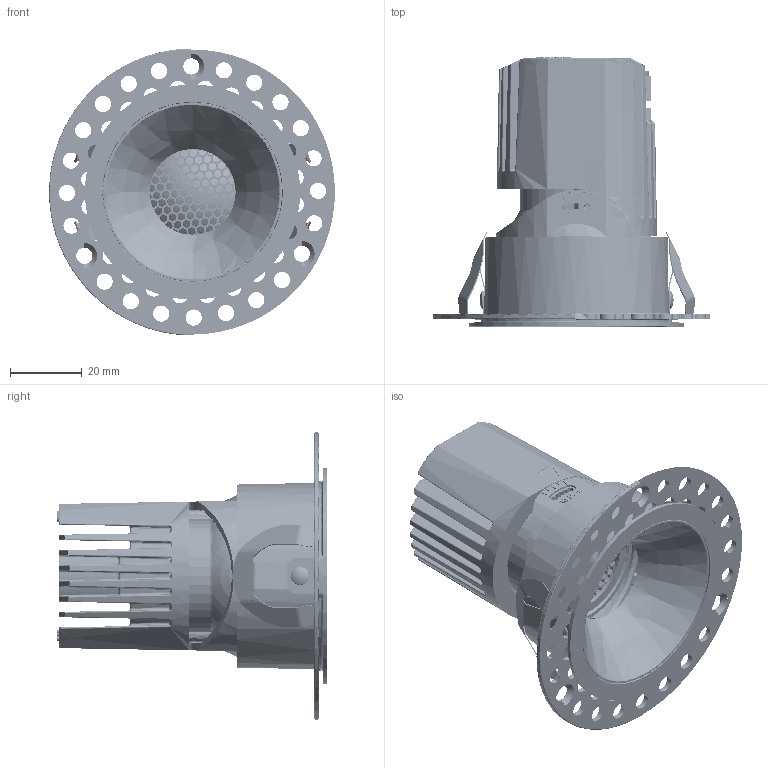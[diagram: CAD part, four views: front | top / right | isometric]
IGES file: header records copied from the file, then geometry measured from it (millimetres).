
Start section: SolidWorks IGES file using analytic representation for surfaces
Global section: file name: \\ARNOLD\compartida\Nueva Coleccion Septiembre 2026\ARQUITECTURAL\SEITY_informacion\SEITY_imagenes y 3d\Required documents_0706\3D STEP file - downlights\TERNA T0331\168001-55.STEP.IGS; native system: SolidWorks 2023; preprocessor: SolidWorks 2023; author: adrian; date: 260828.102226; units: millimetre
Bounding box: 79.7 x 75 x 80 mm (x, y, z)
Surface area: 76880.1 mm2 (no closed solid volume)
Topology: 0 solids, 0 shells, 9826 faces, 74033 edges, 73749 vertices
Faces by surface type: bspline 7911, revolution 1915
